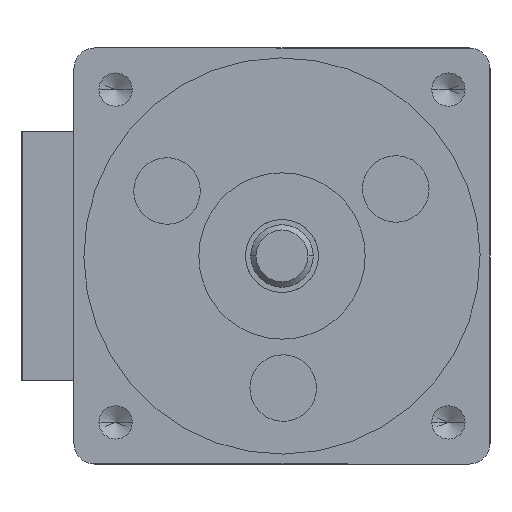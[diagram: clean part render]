
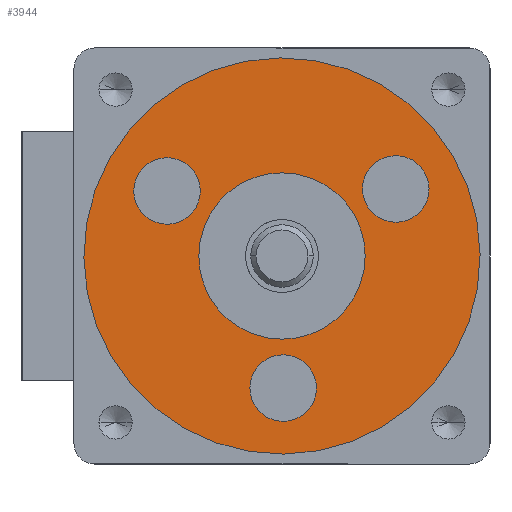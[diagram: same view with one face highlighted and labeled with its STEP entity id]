
A CAD part, left-side view. The second image highlights one B-rep face of the part: STEP entity #3944.
In plain terms, the highlighted planar face has unit normal (-1, 0, 0) as drawn and (0, 1, 0) by its records, which use the part's own axes.
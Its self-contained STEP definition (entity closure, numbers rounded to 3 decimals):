
#56 = EDGE_LOOP ( 'NONE', ( #1936, #4808 ) ) ;
#58 = DIRECTION ( 'NONE',  ( 0., 0., 1. ) ) ;
#65 = CIRCLE ( 'NONE', #7061, 4. ) ;
#150 = DIRECTION ( 'NONE',  ( 0., 0., 1. ) ) ;
#165 = DIRECTION ( 'NONE',  ( 0., 1., 0. ) ) ;
#170 = DIRECTION ( 'NONE',  ( 0., 0., 1. ) ) ;
#201 = AXIS2_PLACEMENT_3D ( 'NONE', #4485, #1183, #5015 ) ;
#202 = EDGE_CURVE ( 'NONE', #901, #5155, #6887, .T. ) ;
#224 = CARTESIAN_POINT ( 'NONE',  ( 0., 3.8, -4.75 ) ) ;
#354 = DIRECTION ( 'NONE',  ( 0., 0., 1. ) ) ;
#536 = DIRECTION ( 'NONE',  ( 0., 1., 0. ) ) ;
#626 = AXIS2_PLACEMENT_3D ( 'NONE', #6570, #1655, #58 ) ;
#665 = CARTESIAN_POINT ( 'NONE',  ( 0., 3.8, -6.35 ) ) ;
#686 = EDGE_CURVE ( 'NONE', #2452, #3976, #5967, .T. ) ;
#719 = VERTEX_POINT ( 'NONE', #224 ) ;
#741 = FACE_OUTER_BOUND ( 'NONE', #3823, .T. ) ;
#780 = CIRCLE ( 'NONE', #5046, 1.6 ) ;
#901 = VERTEX_POINT ( 'NONE', #3784 ) ;
#908 = FACE_BOUND ( 'NONE', #2408, .T. ) ;
#1183 = DIRECTION ( 'NONE',  ( 0., 1., 0. ) ) ;
#1195 = DIRECTION ( 'NONE',  ( 0., 0., 1. ) ) ;
#1215 = ORIENTED_EDGE ( 'NONE', *, *, #7072, .F. ) ;
#1242 = FACE_BOUND ( 'NONE', #2961, .T. ) ;
#1285 = AXIS2_PLACEMENT_3D ( 'NONE', #6677, #3442, #150 ) ;
#1293 = AXIS2_PLACEMENT_3D ( 'NONE', #6702, #3473, #170 ) ;
#1355 = DIRECTION ( 'NONE',  ( 0., 1., 0. ) ) ;
#1408 = CARTESIAN_POINT ( 'NONE',  ( -5.499, 3.8, 3.175 ) ) ;
#1586 = CIRCLE ( 'NONE', #4883, 1.6 ) ;
#1655 = DIRECTION ( 'NONE',  ( 0., 1., 0. ) ) ;
#1707 = CARTESIAN_POINT ( 'NONE',  ( 0., 3.8, -7.95 ) ) ;
#1936 = ORIENTED_EDGE ( 'NONE', *, *, #4450, .F. ) ;
#1966 = DIRECTION ( 'NONE',  ( 0., 0., 1. ) ) ;
#2087 = VERTEX_POINT ( 'NONE', #4659 ) ;
#2343 = VERTEX_POINT ( 'NONE', #1707 ) ;
#2384 = CARTESIAN_POINT ( 'NONE',  ( 0., 3.8, 0. ) ) ;
#2408 = EDGE_LOOP ( 'NONE', ( #1215, #4605 ) ) ;
#2452 = VERTEX_POINT ( 'NONE', #5790 ) ;
#2706 = ORIENTED_EDGE ( 'NONE', *, *, #3085, .F. ) ;
#2828 = EDGE_CURVE ( 'NONE', #2087, #4304, #65, .T. ) ;
#2868 = ORIENTED_EDGE ( 'NONE', *, *, #6953, .T. ) ;
#2942 = DIRECTION ( 'NONE',  ( 0., 0., 1. ) ) ;
#2961 = EDGE_LOOP ( 'NONE', ( #3522, #2706 ) ) ;
#2971 = CARTESIAN_POINT ( 'NONE',  ( 5.499, 3.8, 1.575 ) ) ;
#3017 = EDGE_CURVE ( 'NONE', #4232, #5770, #6274, .T. ) ;
#3085 = EDGE_CURVE ( 'NONE', #719, #2343, #6037, .T. ) ;
#3123 = CARTESIAN_POINT ( 'NONE',  ( 5.499, 3.8, 3.175 ) ) ;
#3442 = DIRECTION ( 'NONE',  ( 0., 1., 0. ) ) ;
#3465 = CARTESIAN_POINT ( 'NONE',  ( 0., 3.8, 0. ) ) ;
#3473 = DIRECTION ( 'NONE',  ( 0., 1., 0. ) ) ;
#3522 = ORIENTED_EDGE ( 'NONE', *, *, #6003, .F. ) ;
#3616 = CARTESIAN_POINT ( 'NONE',  ( -5.499, 3.8, 4.775 ) ) ;
#3654 = DIRECTION ( 'NONE',  ( 0., 1., 0. ) ) ;
#3678 = FACE_BOUND ( 'NONE', #6645, .T. ) ;
#3784 = CARTESIAN_POINT ( 'NONE',  ( 5.499, 3.8, 4.775 ) ) ;
#3818 = ORIENTED_EDGE ( 'NONE', *, *, #686, .T. ) ;
#3823 = EDGE_LOOP ( 'NONE', ( #3818, #2868 ) ) ;
#3824 = CARTESIAN_POINT ( 'NONE',  ( 0., 3.8, 0. ) ) ;
#3908 = AXIS2_PLACEMENT_3D ( 'NONE', #2384, #6172, #2942 ) ;
#3944 = ADVANCED_FACE ( 'NONE', ( #6524, #908, #1242, #3678, #741 ), #6036, .T. ) ;
#3976 = VERTEX_POINT ( 'NONE', #4457 ) ;
#4003 = DIRECTION ( 'NONE',  ( 0., 0., 1. ) ) ;
#4023 = AXIS2_PLACEMENT_3D ( 'NONE', #3824, #536, #4369 ) ;
#4204 = CARTESIAN_POINT ( 'NONE',  ( 0., 3.8, -4. ) ) ;
#4232 = VERTEX_POINT ( 'NONE', #3616 ) ;
#4304 = VERTEX_POINT ( 'NONE', #4204 ) ;
#4369 = DIRECTION ( 'NONE',  ( 0., 0., 1. ) ) ;
#4450 = EDGE_CURVE ( 'NONE', #5770, #4232, #1586, .T. ) ;
#4457 = CARTESIAN_POINT ( 'NONE',  ( 0., 3.8, 9.525 ) ) ;
#4485 = CARTESIAN_POINT ( 'NONE',  ( -5.499, 3.8, 3.175 ) ) ;
#4493 = DIRECTION ( 'NONE',  ( 0., 1., 0. ) ) ;
#4605 = ORIENTED_EDGE ( 'NONE', *, *, #202, .F. ) ;
#4615 = AXIS2_PLACEMENT_3D ( 'NONE', #4646, #1355, #5185 ) ;
#4632 = CIRCLE ( 'NONE', #4023, 4. ) ;
#4646 = CARTESIAN_POINT ( 'NONE',  ( 5.499, 3.8, 3.175 ) ) ;
#4659 = CARTESIAN_POINT ( 'NONE',  ( 0., 3.8, 4. ) ) ;
#4808 = ORIENTED_EDGE ( 'NONE', *, *, #3017, .F. ) ;
#4881 = ORIENTED_EDGE ( 'NONE', *, *, #2828, .F. ) ;
#4883 = AXIS2_PLACEMENT_3D ( 'NONE', #1408, #5235, #1966 ) ;
#5015 = DIRECTION ( 'NONE',  ( 0., 0., 1. ) ) ;
#5046 = AXIS2_PLACEMENT_3D ( 'NONE', #665, #4493, #1195 ) ;
#5155 = VERTEX_POINT ( 'NONE', #2971 ) ;
#5185 = DIRECTION ( 'NONE',  ( 0., 0., 1. ) ) ;
#5235 = DIRECTION ( 'NONE',  ( 0., 1., 0. ) ) ;
#5770 = VERTEX_POINT ( 'NONE', #6443 ) ;
#5790 = CARTESIAN_POINT ( 'NONE',  ( 0., 3.8, -9.525 ) ) ;
#5806 = ORIENTED_EDGE ( 'NONE', *, *, #6730, .F. ) ;
#5967 = CIRCLE ( 'NONE', #3908, 9.525 ) ;
#5970 = CIRCLE ( 'NONE', #4615, 1.6 ) ;
#6003 = EDGE_CURVE ( 'NONE', #2343, #719, #780, .T. ) ;
#6036 = PLANE ( 'NONE',  #626 ) ;
#6037 = CIRCLE ( 'NONE', #1285, 1.6 ) ;
#6072 = AXIS2_PLACEMENT_3D ( 'NONE', #3123, #3654, #354 ) ;
#6172 = DIRECTION ( 'NONE',  ( 0., 1., 0. ) ) ;
#6274 = CIRCLE ( 'NONE', #201, 1.6 ) ;
#6443 = CARTESIAN_POINT ( 'NONE',  ( -5.499, 3.8, 1.575 ) ) ;
#6476 = CIRCLE ( 'NONE', #1293, 9.525 ) ;
#6524 = FACE_BOUND ( 'NONE', #56, .T. ) ;
#6570 = CARTESIAN_POINT ( 'NONE',  ( 0., 3.8, 0. ) ) ;
#6645 = EDGE_LOOP ( 'NONE', ( #5806, #4881 ) ) ;
#6677 = CARTESIAN_POINT ( 'NONE',  ( 0., 3.8, -6.35 ) ) ;
#6702 = CARTESIAN_POINT ( 'NONE',  ( 0., 3.8, 0. ) ) ;
#6730 = EDGE_CURVE ( 'NONE', #4304, #2087, #4632, .T. ) ;
#6887 = CIRCLE ( 'NONE', #6072, 1.6 ) ;
#6953 = EDGE_CURVE ( 'NONE', #3976, #2452, #6476, .T. ) ;
#7061 = AXIS2_PLACEMENT_3D ( 'NONE', #3465, #165, #4003 ) ;
#7072 = EDGE_CURVE ( 'NONE', #5155, #901, #5970, .T. ) ;
